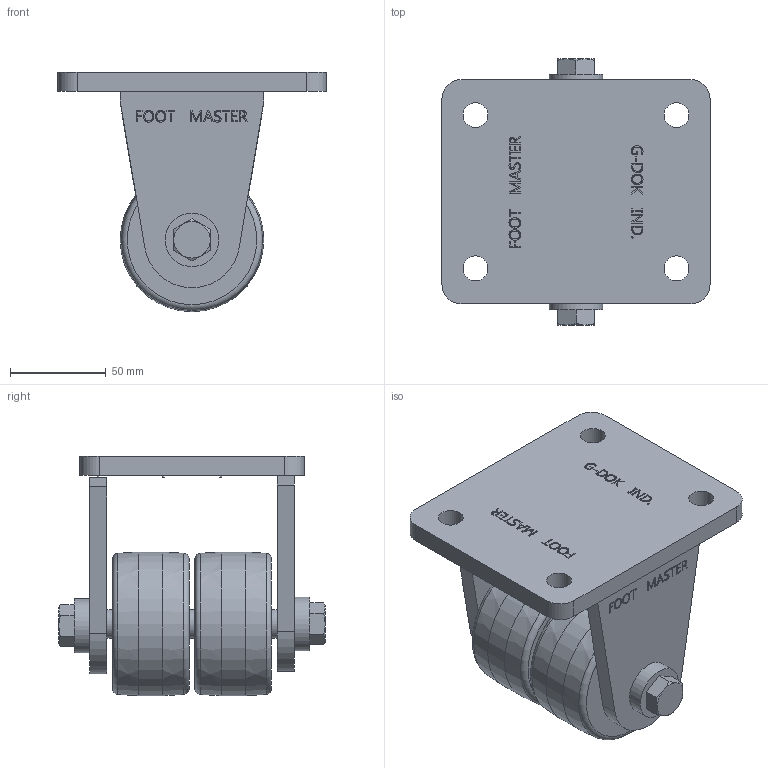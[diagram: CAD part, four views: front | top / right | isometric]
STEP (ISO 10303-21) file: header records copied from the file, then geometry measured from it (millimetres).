
FILE_DESCRIPTION((''),'2;1');
FILE_NAME('E:\GXTT\가져온 구성요소\GXTT-75 RF-3D\GXTT-75-ARF.stp','2011-11-21T09:45:29',('Administrator'),(''),'Autodesk Inventor 2011','Autodesk Inventor 2011','');
FILE_SCHEMA(('AUTOMOTIVE_DESIGN { 1 0 10303 214 1 1 1 1 }'));
Length unit declared in the file: millimetre
Products named in the file (1): GXTT-75-ARF
Bounding box: 140 x 139 x 125 mm (x, y, z)
Volume: 626862.2 mm3; surface area: 103512.8 mm2
Topology: 1 solids, 4 shells, 717 faces, 1915 edges, 1269 vertices
Faces by surface type: plane 400, bspline 277, cylinder 24, cone 12, torus 4
Full cylindrical faces by diameter (mm): 1 x6, 2 x1, 13 x4, 15 x3, 28 x2, 75 x2
Entity records: 23472 total; most frequent: CARTESIAN_POINT 7567, ORIENTED_EDGE 3768, DIRECTION 2268, EDGE_CURVE 1884, VERTEX_POINT 1264, VECTOR 1242, LINE 1242, EDGE_LOOP 822
